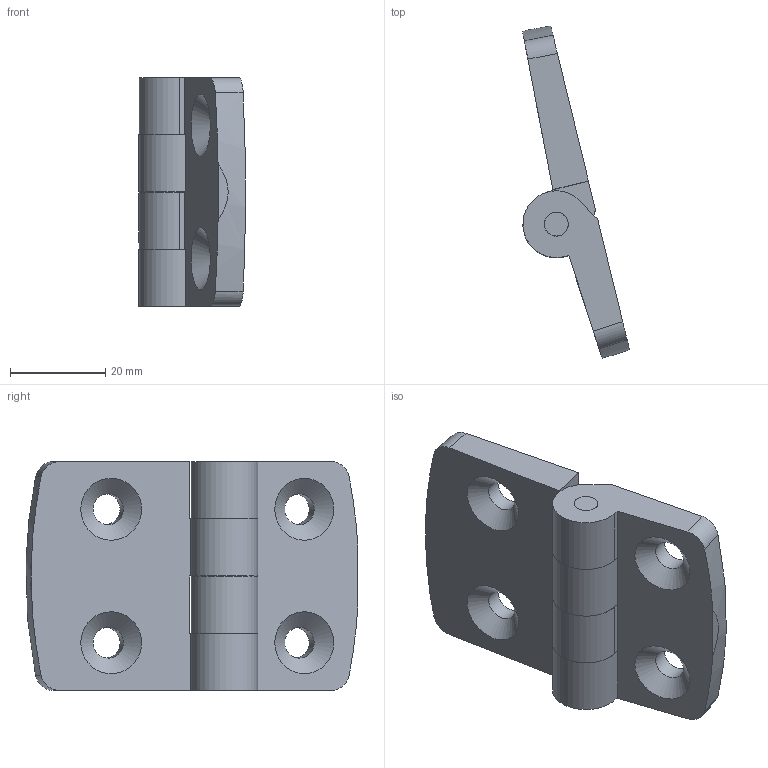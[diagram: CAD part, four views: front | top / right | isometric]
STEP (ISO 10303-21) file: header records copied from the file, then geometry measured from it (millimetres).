
FILE_DESCRIPTION((''),'2;1');
FILE_NAME('E:\catalogue and flyer\Profile catalogue 2015\Accessories ACC info\Accessories ACC step file 31Mar16\ACC-H6848-8.stp','2016-04-07T13:22:30',('h029'),(''),'Autodesk Inventor 11','Autodesk Inventor 11','');
FILE_SCHEMA(('AUTOMOTIVE_DESIGN { 1 0 10303 214 1 1 1 1 }'));
Length unit declared in the file: millimetre
Products named in the file (4): ACC-H6848-8; Part1; pin; Part2
Assembly tree (3 placements, depth 2):
  ACC-H6848-8
    Part1
    pin
    Part2
Bounding box: 22.43 x 69.63 x 48 mm (x, y, z)
Volume: 24865.5 mm3; surface area: 11833.7 mm2
Topology: 3 solids, 3 shells, 65 faces, 177 edges, 118 vertices
Faces by surface type: plane 38, cylinder 19, bspline 8
Full cylindrical faces by diameter (mm): 5 x5
Entity records: 2203 total; most frequent: CARTESIAN_POINT 482, DIRECTION 342, ORIENTED_EDGE 320, EDGE_CURVE 160, AXIS2_PLACEMENT_3D 118, VERTEX_POINT 114, VECTOR 106, LINE 106
